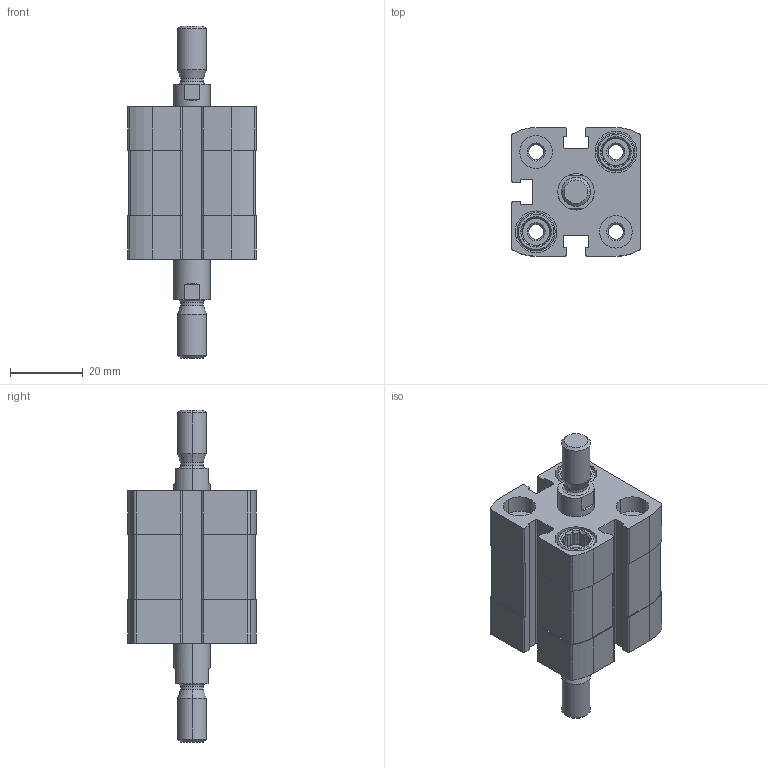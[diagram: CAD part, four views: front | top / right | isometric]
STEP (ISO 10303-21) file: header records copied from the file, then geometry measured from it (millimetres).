
FILE_DESCRIPTION (( 'STEP AP203' ), '1' );
FILE_NAME ('CCN20-5-P.STEP', '2020-06-22T18:38:59', ( '' ), ( '' ), 'SwSTEP 2.0', 'SolidWorks 2019', '' );
FILE_SCHEMA (( 'CONFIG_CONTROL_DESIGN' ));
Length unit declared in the file: millimetre
Products named in the file (1): CCN20-5-P
Bounding box: 35.5 x 35.5 x 91.5 mm (x, y, z)
Volume: 43953.3 mm3; surface area: 19750.6 mm2
Topology: 2 solids, 2 shells, 428 faces, 1124 edges, 732 vertices
Faces by surface type: plane 236, cylinder 140, cone 44, torus 8
Entity records: 13463 total; most frequent: CARTESIAN_POINT 2585, DIRECTION 2322, ORIENTED_EDGE 2248, EDGE_CURVE 1124, AXIS2_PLACEMENT_3D 869, VERTEX_POINT 732, LINE 584, VECTOR 584
